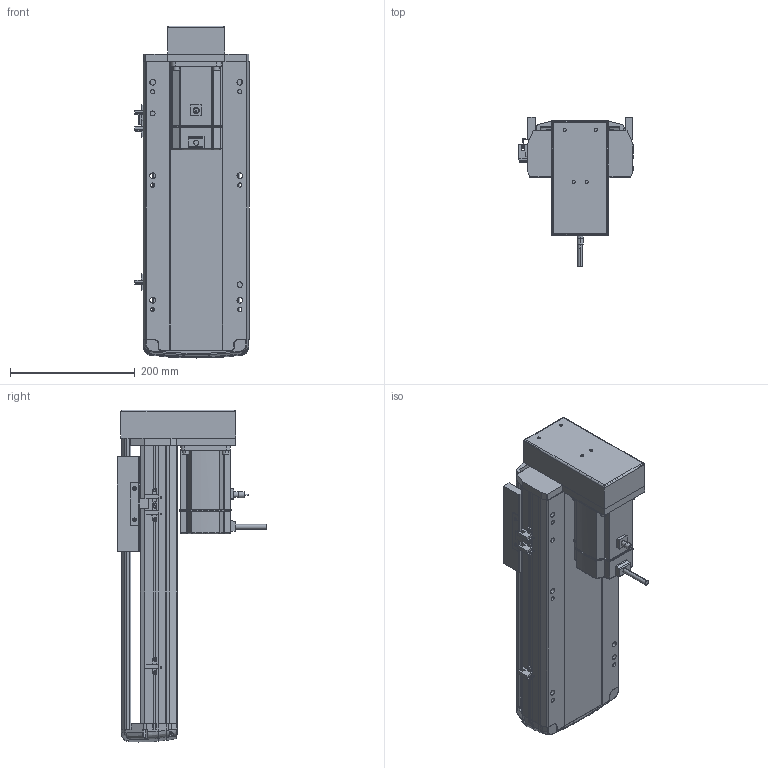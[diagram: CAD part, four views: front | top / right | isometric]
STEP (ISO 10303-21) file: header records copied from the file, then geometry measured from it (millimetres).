
FILE_DESCRIPTION (( 'STEP AP214' ), '1' );
FILE_NAME ('RTH17-XX-250-M-M75-C4.STEP', '2025-10-24T10:22:15', ( '' ), ( '' ), 'SwSTEP 2.0', 'SolidWorks 2018', '' );
FILE_SCHEMA (( 'AUTOMOTIVE_DESIGN' ));
Length unit declared in the file: millimetre
Products named in the file (10): N_RTH17-E-004丝杆螺母连接座^RTH17-XX-XX-M-M75-C4（方程式）; N_RTH17-M-008-P75电机安装板下折750W^RTH17-XX-XX-M-M75-C4（方程式）; N_RTH17-M-018盖子^RTH17-XX-XX-M-M75-C4（方程式）; RTH17-XX-250-M-M75-C4; N_RTH17-M-007上盖^RTH17-XX-XX-M-M75-C4（方程式）; N_OMRON EE-SX672 換覜ん^RTH17-XX-XX-M-M75-C4ㄗ源最宒ㄘ; N_M75^RTH17-XX-XX-M-M75-C4（方程式）; N_RTH17-GY-001P^RTH17-XX-XX-M-M75-C4（方程式）; N_RTH-BL-012 感应片(外置)^RTH17-XX-XX-M-M75-C4（方程式）; N_RTH17-M-011底座^RTH17-XX-XX-M-M75-C4（方程式）
Assembly tree (11 placements, depth 2):
  RTH17-XX-250-M-M75-C4
    N_RTH17-M-011底座^RTH17-XX-XX-M-M75-C4（方程式）
    N_RTH17-M-007上盖^RTH17-XX-XX-M-M75-C4（方程式）
    N_M75^RTH17-XX-XX-M-M75-C4（方程式）
    N_OMRON EE-SX672 換覜ん^RTH17-XX-XX-M-M75-C4ㄗ源最宒ㄘ  x3
    N_RTH-BL-012 感应片(外置)^RTH17-XX-XX-M-M75-C4（方程式）
    N_RTH17-M-008-P75电机安装板下折750W^RTH17-XX-XX-M-M75-C4（方程式）
    N_RTH17-M-018盖子^RTH17-XX-XX-M-M75-C4（方程式）
    N_RTH17-E-004丝杆螺母连接座^RTH17-XX-XX-M-M75-C4（方程式）
    N_RTH17-GY-001P^RTH17-XX-XX-M-M75-C4（方程式）
Bounding box: 183.5 x 240.7 x 533.27 mm (x, y, z)
Volume: 5080860.7 mm3; surface area: 763325.1 mm2
Topology: 10 solids, 12 shells, 1709 faces, 4688 edges, 3032 vertices
Faces by surface type: plane 824, cylinder 471, bspline 377, cone 28, torus 9
Entity records: 49207 total; most frequent: CARTESIAN_POINT 19758, ORIENTED_EDGE 6400, DIRECTION 5314, EDGE_CURVE 3204, VERTEX_POINT 2068, LINE 1772, VECTOR 1772, AXIS2_PLACEMENT_3D 1771
